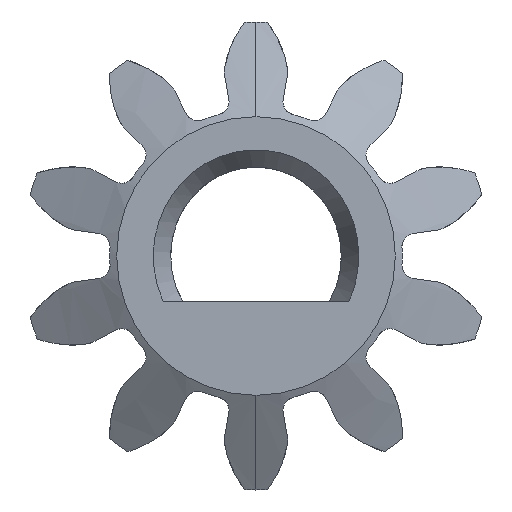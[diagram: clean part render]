
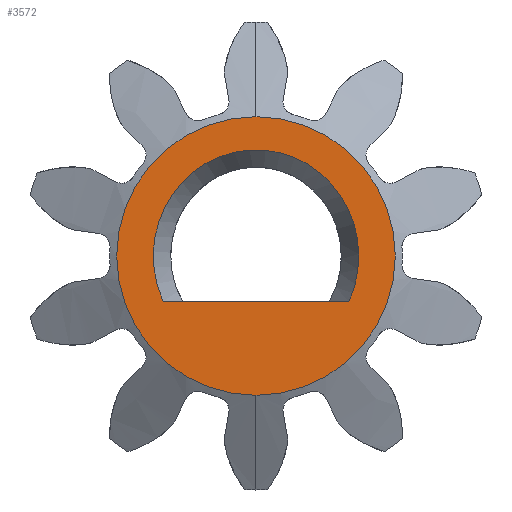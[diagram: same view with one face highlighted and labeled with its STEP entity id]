
A CAD part, front view. The second image highlights one B-rep face of the part: STEP entity #3572.
In plain terms, the highlighted planar face has unit normal (0, -1, 0).
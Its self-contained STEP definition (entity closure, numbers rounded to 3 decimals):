
#2 = CARTESIAN_POINT ( 'NONE',  ( -0.477, 0., 0.363 ) ) ;
#120 = CARTESIAN_POINT ( 'NONE',  ( 0., 0., 0. ) ) ;
#465 = CARTESIAN_POINT ( 'NONE',  ( -0.247, 0., 0.557 ) ) ;
#501 = VERTEX_POINT ( 'NONE', #672 ) ;
#535 = CARTESIAN_POINT ( 'NONE',  ( 0.57, 0., -0.164 ) ) ;
#672 = CARTESIAN_POINT ( 'NONE',  ( 0., 0., 0.8 ) ) ;
#699 = ORIENTED_EDGE ( 'NONE', *, *, #3958, .T. ) ;
#825 = CARTESIAN_POINT ( 'NONE',  ( -0.049, 0., 0.61 ) ) ;
#882 = CARTESIAN_POINT ( 'NONE',  ( -0.198, 0., 0.577 ) ) ;
#914 = CARTESIAN_POINT ( 'NONE',  ( 0.552, 0., 0.237 ) ) ;
#953 = CARTESIAN_POINT ( 'NONE',  ( 0.592, 0., -0.014 ) ) ;
#1240 = CARTESIAN_POINT ( 'NONE',  ( 0.204, 0., 0.581 ) ) ;
#1263 = ORIENTED_EDGE ( 'NONE', *, *, #3879, .T. ) ;
#1292 = CARTESIAN_POINT ( 'NONE',  ( -0.592, 0., -0.014 ) ) ;
#1316 = B_SPLINE_CURVE_WITH_KNOTS ( 'NONE', 3,
 ( #4177, #5009, #2494, #2058, #1292, #3737, #2529, #2, #4551, #2075, #4536, #465, #882, #1641, #825, #1716, #1240, #5366, #2919, #4214, #4679, #914, #4264, #953, #1379, #535, #1738, #3006 ),
 .UNSPECIFIED., .F., .F.,
 ( 4, 2, 2, 2, 2, 2, 2, 2, 2, 2, 2, 2, 2, 4 ),
 ( 0., 0.063, 0.125, 0.25, 0.313, 0.375, 0.438, 0.5, 0.625, 0.688, 0.75, 0.875, 0.938, 1. ),
 .UNSPECIFIED. ) ;
#1379 = CARTESIAN_POINT ( 'NONE',  ( 0.588, 0., -0.068 ) ) ;
#1641 = CARTESIAN_POINT ( 'NONE',  ( -0.103, 0., 0.603 ) ) ;
#1646 = EDGE_LOOP ( 'NONE', ( #2859, #699 ) ) ;
#1678 = DIRECTION ( 'NONE',  ( -1., 0., 0. ) ) ;
#1716 = CARTESIAN_POINT ( 'NONE',  ( 0.099, 0., 0.61 ) ) ;
#1738 = CARTESIAN_POINT ( 'NONE',  ( 0.555, 0., -0.212 ) ) ;
#1782 = FACE_OUTER_BOUND ( 'NONE', #2560, .T. ) ;
#2058 = CARTESIAN_POINT ( 'NONE',  ( -0.588, 0., -0.068 ) ) ;
#2075 = CARTESIAN_POINT ( 'NONE',  ( -0.374, 0., 0.474 ) ) ;
#2160 = PLANE ( 'NONE',  #5373 ) ;
#2195 = DIRECTION ( 'NONE',  ( 0., 1., 0. ) ) ;
#2321 = AXIS2_PLACEMENT_3D ( 'NONE', #5352, #3700, #2904 ) ;
#2494 = CARTESIAN_POINT ( 'NONE',  ( -0.57, 0., -0.164 ) ) ;
#2529 = CARTESIAN_POINT ( 'NONE',  ( -0.552, 0., 0.236 ) ) ;
#2560 = EDGE_LOOP ( 'NONE', ( #1263, #5314 ) ) ;
#2599 = AXIS2_PLACEMENT_3D ( 'NONE', #4087, #3742, #3687 ) ;
#2627 = DIRECTION ( 'NONE',  ( 0., 0., 1. ) ) ;
#2710 = VERTEX_POINT ( 'NONE', #2981 ) ;
#2859 = ORIENTED_EDGE ( 'NONE', *, *, #4992, .T. ) ;
#2904 = DIRECTION ( 'NONE',  ( 0., 0., -1. ) ) ;
#2919 = CARTESIAN_POINT ( 'NONE',  ( 0.374, 0., 0.474 ) ) ;
#2981 = CARTESIAN_POINT ( 'NONE',  ( -0.534, 0., -0.26 ) ) ;
#3006 = CARTESIAN_POINT ( 'NONE',  ( 0.534, 0., -0.26 ) ) ;
#3273 = CIRCLE ( 'NONE', #2321, 0.8 ) ;
#3492 = VERTEX_POINT ( 'NONE', #4603 ) ;
#3572 = ADVANCED_FACE ( 'NONE', ( #4109, #1782 ), #2160, .F. ) ;
#3687 = DIRECTION ( 'NONE',  ( 0., 0., -1. ) ) ;
#3700 = DIRECTION ( 'NONE',  ( 0., -1., 0. ) ) ;
#3737 = CARTESIAN_POINT ( 'NONE',  ( -0.584, 0., 0.133 ) ) ;
#3742 = DIRECTION ( 'NONE',  ( 0., -1., 0. ) ) ;
#3774 = CARTESIAN_POINT ( 'NONE',  ( 0.534, 0., -0.26 ) ) ;
#3879 = EDGE_CURVE ( 'NONE', #501, #3492, #4826, .T. ) ;
#3885 = EDGE_CURVE ( 'NONE', #3492, #501, #3273, .T. ) ;
#3958 = EDGE_CURVE ( 'NONE', #4051, #2710, #4360, .T. ) ;
#4051 = VERTEX_POINT ( 'NONE', #3774 ) ;
#4087 = CARTESIAN_POINT ( 'NONE',  ( 0., 0., 0. ) ) ;
#4109 = FACE_BOUND ( 'NONE', #1646, .T. ) ;
#4177 = CARTESIAN_POINT ( 'NONE',  ( -0.534, 0., -0.26 ) ) ;
#4214 = CARTESIAN_POINT ( 'NONE',  ( 0.444, 0., 0.405 ) ) ;
#4264 = CARTESIAN_POINT ( 'NONE',  ( 0.584, 0., 0.132 ) ) ;
#4360 = LINE ( 'NONE', #4991, #5284 ) ;
#4536 = CARTESIAN_POINT ( 'NONE',  ( -0.332, 0., 0.507 ) ) ;
#4551 = CARTESIAN_POINT ( 'NONE',  ( -0.443, 0., 0.405 ) ) ;
#4603 = CARTESIAN_POINT ( 'NONE',  ( 0., 0., -0.8 ) ) ;
#4679 = CARTESIAN_POINT ( 'NONE',  ( 0.477, 0., 0.363 ) ) ;
#4826 = CIRCLE ( 'NONE', #2599, 0.8 ) ;
#4991 = CARTESIAN_POINT ( 'NONE',  ( -0.422, 0., -0.26 ) ) ;
#4992 = EDGE_CURVE ( 'NONE', #2710, #4051, #1316, .T. ) ;
#5009 = CARTESIAN_POINT ( 'NONE',  ( -0.554, 0., -0.215 ) ) ;
#5284 = VECTOR ( 'NONE', #1678, 1000. ) ;
#5314 = ORIENTED_EDGE ( 'NONE', *, *, #3885, .T. ) ;
#5352 = CARTESIAN_POINT ( 'NONE',  ( 0., 0., 0. ) ) ;
#5366 = CARTESIAN_POINT ( 'NONE',  ( 0.331, 0., 0.507 ) ) ;
#5373 = AXIS2_PLACEMENT_3D ( 'NONE', #120, #2195, #2627 ) ;
